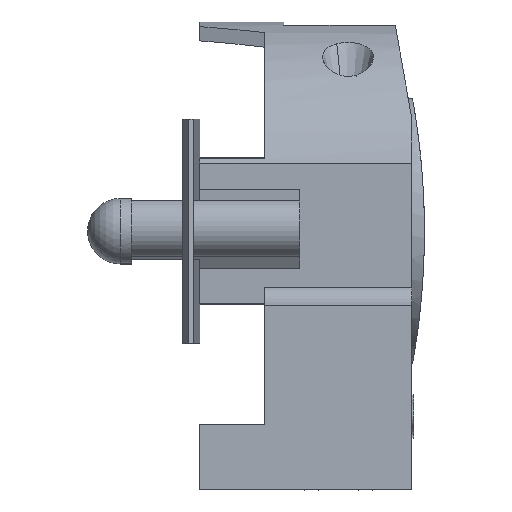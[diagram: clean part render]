
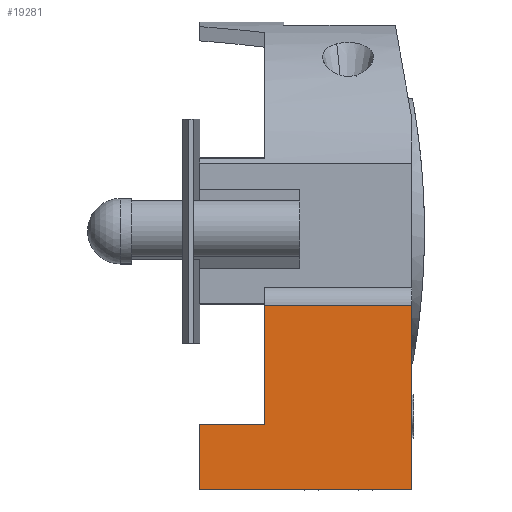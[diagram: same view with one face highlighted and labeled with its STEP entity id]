
A CAD part, left-side view. The second image highlights one B-rep face of the part: STEP entity #19281.
In plain terms, the highlighted planar face has unit normal (-1, 0, 0.018).
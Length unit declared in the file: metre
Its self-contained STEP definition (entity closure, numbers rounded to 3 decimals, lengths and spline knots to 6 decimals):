
#6886= CARTESIAN_POINT(' ',(-0.012309,0.008525,-0.0112));
#6887= VERTEX_POINT(' ',#6886);
#6901= CARTESIAN_POINT(' ',(-0.012188,0.008525,-0.004286));
#6906= DIRECTION(' ',(-0.017,0.,-1.));
#6911= VECTOR(' ',#6906,1.);
#6916= LINE(' ',#6901,#6911);
#6921= CARTESIAN_POINT(' ',(-0.012188,0.008525,-0.004286));
#6922= VERTEX_POINT(' ',#6921);
#6926= EDGE_CURVE(' ',#6922,#6887,#6916,.T.);
#7566= CARTESIAN_POINT(' ',(-0.012188,0.,-0.004286));
#7567= VERTEX_POINT(' ',#7566);
#7591= CARTESIAN_POINT(' ',(-0.012188,0.008525,-0.004286));
#7596= DIRECTION(' ',(0.,-1.,0.));
#7601= VECTOR(' ',#7596,1.);
#7606= LINE(' ',#7591,#7601);
#7611= EDGE_CURVE(' ',#6922,#7567,#7606,.T.);
#7901= CARTESIAN_POINT(' ',(-0.012188,0.,-0.004286));
#7906= DIRECTION(' ',(-0.017,0.,-1.));
#7911= VECTOR(' ',#7906,1.);
#7916= LINE(' ',#7901,#7911);
#7921= CARTESIAN_POINT(' ',(-0.012375,0.,-0.015));
#7922= VERTEX_POINT(' ',#7921);
#7926= EDGE_CURVE(' ',#7567,#7922,#7916,.T.);
#17376= CARTESIAN_POINT(' ',(-0.012375,0.0123,-0.015));
#17381= DIRECTION(' ',(0.,-1.,0.));
#17386= VECTOR(' ',#17381,1.);
#17391= LINE(' ',#17376,#17386);
#17396= CARTESIAN_POINT(' ',(-0.012375,0.0123,-0.015));
#17397= VERTEX_POINT(' ',#17396);
#17401= EDGE_CURVE(' ',#17397,#7922,#17391,.T.);
#19061= CARTESIAN_POINT(' ',(-0.012309,0.008525,-0.0112));
#19066= DIRECTION(' ',(0.,1.,0.));
#19071= VECTOR(' ',#19066,1.);
#19076= LINE(' ',#19061,#19071);
#19081= CARTESIAN_POINT(' ',(-0.012309,0.0123,-0.0112));
#19082= VERTEX_POINT(' ',#19081);
#19086= EDGE_CURVE(' ',#6887,#19082,#19076,.T.);
#19191= CARTESIAN_POINT(' ',(-0.012375,0.,-0.015));
#19196= DIRECTION(' ',(-1.,0.,0.017));
#19201= DIRECTION(' ',(0.017,0.,1.));
#19206= AXIS2_PLACEMENT_3D(' ',#19191,#19196,#19201);
#19211= PLANE(' ',#19206);
#19216= ORIENTED_EDGE(' ',*,*,#6926,.T.);
#19221= ORIENTED_EDGE(' ',*,*,#19086,.T.);
#19226= CARTESIAN_POINT(' ',(-0.012309,0.0123,-0.0112));
#19231= DIRECTION(' ',(-0.017,0.,-1.));
#19236= VECTOR(' ',#19231,1.);
#19241= LINE(' ',#19226,#19236);
#19246= EDGE_CURVE(' ',#19082,#17397,#19241,.T.);
#19251= ORIENTED_EDGE(' ',*,*,#19246,.T.);
#19256= ORIENTED_EDGE(' ',*,*,#17401,.T.);
#19261= ORIENTED_EDGE(' ',*,*,#7926,.F.);
#19266= ORIENTED_EDGE(' ',*,*,#7611,.F.);
#19271= EDGE_LOOP(' ',(#19216,#19221,#19251,#19256,#19261,#19266));
#19276= FACE_OUTER_BOUND(' ',#19271,.T.);
#19281= ADVANCED_FACE(' ',(#19276),#19211,.T.);
